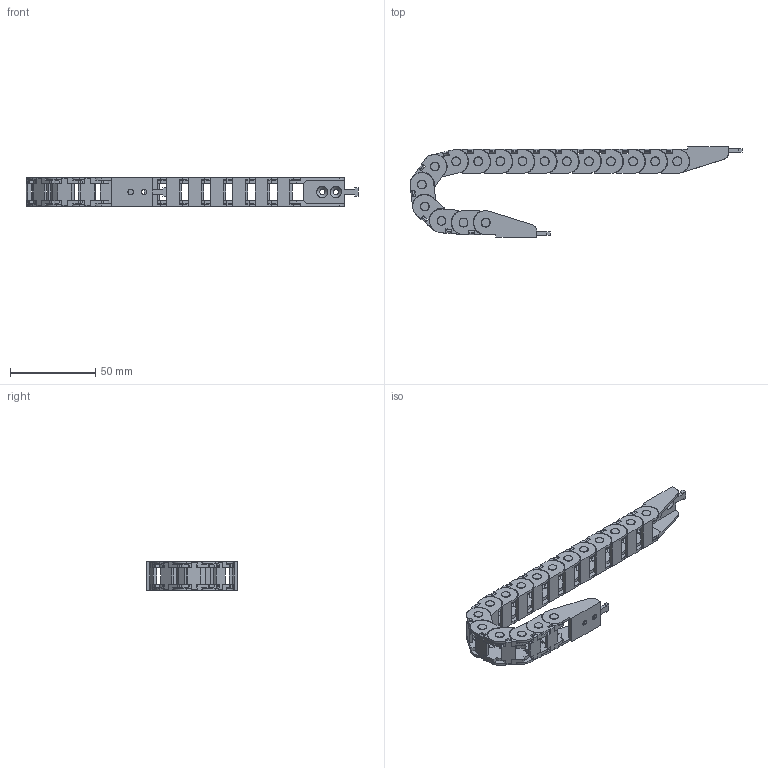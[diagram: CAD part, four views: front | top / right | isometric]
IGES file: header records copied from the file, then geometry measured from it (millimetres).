
Global section: file name: C:\Users\htj04\Desktop\0130-1BN\HSP\3D\HSP 0130-1N 18R 16Link_1.igs; native system: NX V6.0; preprocessor: SIEMENS UGS NX 6.0; date: 20170724.155026; units: millimetre
Bounding box: 195.13 x 53 x 17.4 mm (x, y, z)
Surface area: 36542.1 mm2 (no closed solid volume)
Topology: 0 solids, 0 shells, 1406 faces, 9525 edges, 9467 vertices
Faces by surface type: bspline 1406
